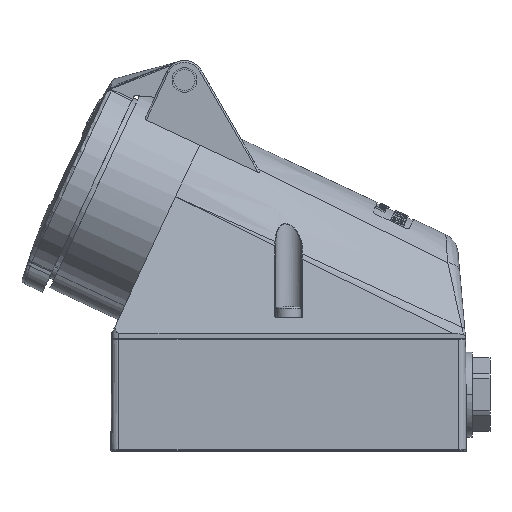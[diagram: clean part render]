
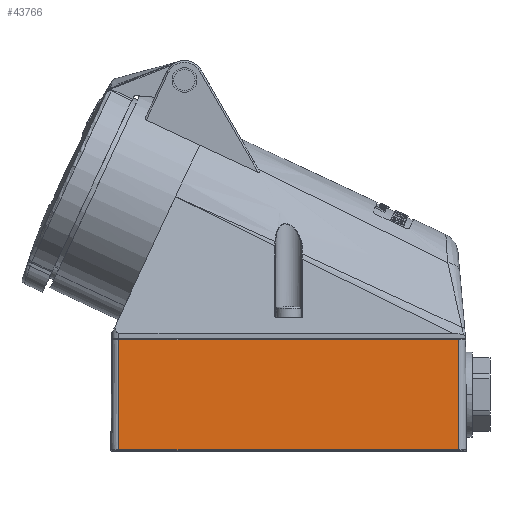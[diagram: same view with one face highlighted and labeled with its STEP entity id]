
A CAD part, top view. The second image highlights one B-rep face of the part: STEP entity #43766.
In plain terms, the highlighted planar face has unit normal (0, 0.009, 1).
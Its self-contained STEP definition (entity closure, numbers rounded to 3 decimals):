
#13718=DIRECTION('',(0.,-1.,0.009));
#13719=VECTOR('',#13718,31.201);
#13720=CARTESIAN_POINT('',(-48.,31.2,
37.253));
#13721=LINE('1701',#13720,#13719);
#13746=DIRECTION('',(-1.,0.,0.));
#13747=VECTOR('',#13746,96.);
#13748=CARTESIAN_POINT('',(48.,31.2,37.253));
#13749=LINE('1652',#13748,#13747);
#13750=DIRECTION('',(0.,-1.,0.009));
#13751=VECTOR('',#13750,31.201);
#13752=CARTESIAN_POINT('',(48.,31.2,37.253));
#13753=LINE('1700',#13752,#13751);
#13754=DIRECTION('',(-1.,0.,0.));
#13755=VECTOR('',#13754,96.);
#13756=CARTESIAN_POINT('',(48.,0.,
37.525));
#13757=LINE('1676',#13756,#13755);
#14669=CARTESIAN_POINT('',(48.,31.2,37.253));
#14670=VERTEX_POINT('',#14669);
#14671=CARTESIAN_POINT('',(-48.,31.2,
37.253));
#14672=VERTEX_POINT('',#14671);
#14711=CARTESIAN_POINT('',(48.,0.,37.525));
#14712=VERTEX_POINT('',#14711);
#14715=CARTESIAN_POINT('',(-48.,0.,
37.525));
#14716=VERTEX_POINT('',#14715);
#43754=CARTESIAN_POINT('',(49.2,31.497,37.25));
#43755=DIRECTION('',(0.,0.009,1.));
#43756=DIRECTION('',(1.,0.,0.));
#43757=AXIS2_PLACEMENT_3D('',#43754,#43755,#43756);
#43758=PLANE('410',#43757);
#43759=ORIENTED_EDGE('1652',*,*,#43741,.F.);
#43760=ORIENTED_EDGE('1700',*,*,#42720,.T.);
#43762=ORIENTED_EDGE('1676',*,*,#43761,.T.);
#43763=ORIENTED_EDGE('1701',*,*,#43700,.F.);
#43764=EDGE_LOOP('410',(#43759,#43760,#43762,#43763));
#43765=FACE_OUTER_BOUND('410',#43764,.F.);
#42720=EDGE_CURVE('1700',#14670,#14712,#13753,.T.);
#43700=EDGE_CURVE('1701',#14672,#14716,#13721,.T.);
#43741=EDGE_CURVE('1652',#14670,#14672,#13749,.T.);
#43761=EDGE_CURVE('1676',#14712,#14716,#13757,.T.);
#43766=ADVANCED_FACE('410',(#43765),#43758,.T.);
